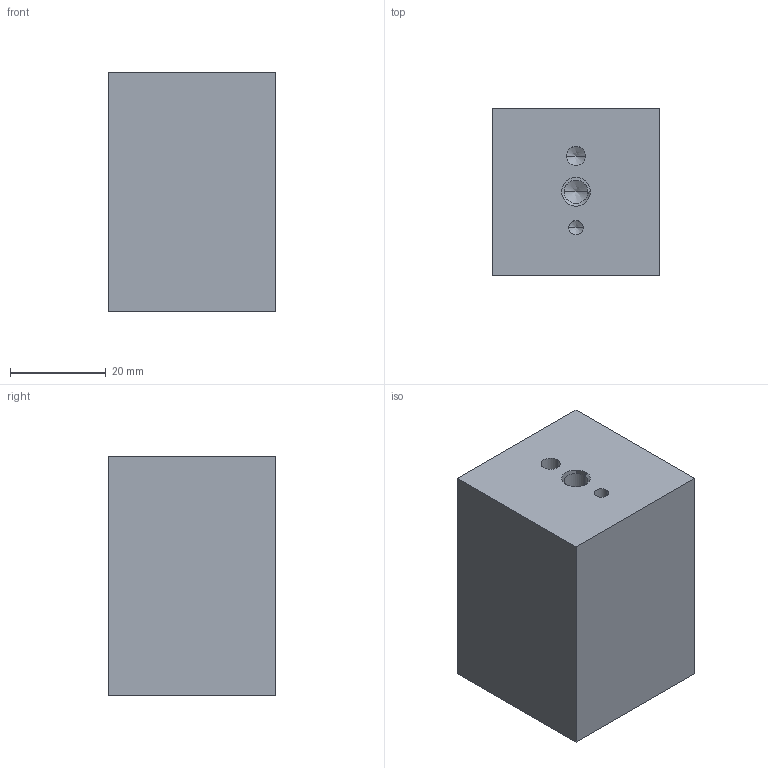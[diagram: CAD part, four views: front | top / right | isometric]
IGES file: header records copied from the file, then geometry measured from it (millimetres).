
Start section: 3D InterOp IGES (v. 2018 1.0.2), Spatial Corp. Copyright (c) 1999-2017.
Global section: file name: V92557-35-35-50.igs; native system: Spatial Corp.; preprocessor: 3D InterOp GENERIC/IGES 3.0; author: Noname; organization: Noname; date: 20191004.070435; units: metre
Bounding box: 35 x 35 x 50 mm (x, y, z)
Surface area: 9944.9 mm2 (no closed solid volume)
Topology: 0 solids, 0 shells, 23 faces, 98 edges, 92 vertices
Faces by surface type: revolution 16, extrusion 7
